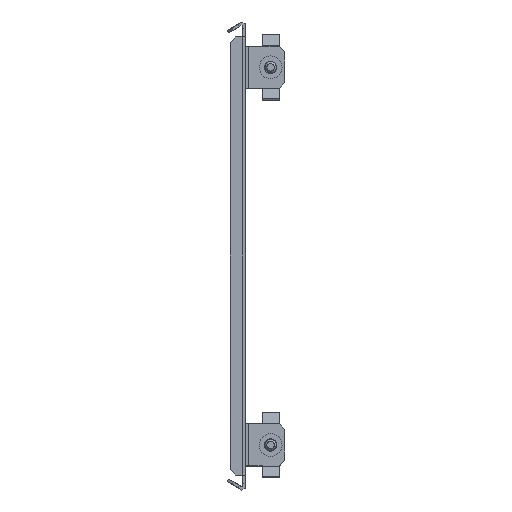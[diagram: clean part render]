
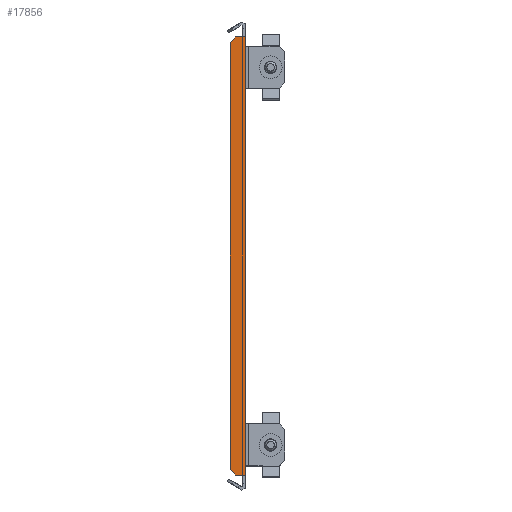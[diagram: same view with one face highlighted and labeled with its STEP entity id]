
A CAD part, front view. The second image highlights one B-rep face of the part: STEP entity #17856.
In plain terms, the highlighted planar face has unit normal (0, -1, 0).
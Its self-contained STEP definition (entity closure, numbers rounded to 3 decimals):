
#342 = ORIENTED_EDGE ( 'NONE', *, *, #19397, .T. ) ;
#425 = VERTEX_POINT ( 'NONE', #13133 ) ;
#575 = CARTESIAN_POINT ( 'NONE',  ( 0., -253., 0. ) ) ;
#748 = EDGE_CURVE ( 'NONE', #22666, #2418, #12321, .T. ) ;
#997 = CARTESIAN_POINT ( 'NONE',  ( 0., -253., -115.897 ) ) ;
#1707 = DIRECTION ( 'NONE',  ( 0., 0., 1. ) ) ;
#1972 = VECTOR ( 'NONE', #10947, 1000. ) ;
#2404 = DIRECTION ( 'NONE',  ( 0., 0., 1. ) ) ;
#2418 = VERTEX_POINT ( 'NONE', #15804 ) ;
#2483 = CARTESIAN_POINT ( 'NONE',  ( 0., -253., 88.75 ) ) ;
#2607 = VERTEX_POINT ( 'NONE', #7504 ) ;
#2643 = DIRECTION ( 'NONE',  ( 0., 0., 1. ) ) ;
#2666 = EDGE_CURVE ( 'NONE', #2418, #425, #14860, .T. ) ;
#2822 = DIRECTION ( 'NONE',  ( 1., 0., 0. ) ) ;
#3143 = VERTEX_POINT ( 'NONE', #18497 ) ;
#3445 = CARTESIAN_POINT ( 'NONE',  ( -8., -253., 112.897 ) ) ;
#3882 = LINE ( 'NONE', #575, #22681 ) ;
#3950 = CARTESIAN_POINT ( 'NONE',  ( -60.448, -253., -60.448 ) ) ;
#4350 = VECTOR ( 'NONE', #14291, 1000. ) ;
#4450 = EDGE_CURVE ( 'NONE', #22280, #3143, #18391, .T. ) ;
#5403 = CARTESIAN_POINT ( 'NONE',  ( 0., -253., 111.095 ) ) ;
#5486 = ORIENTED_EDGE ( 'NONE', *, *, #5732, .T. ) ;
#5499 = LINE ( 'NONE', #12503, #19904 ) ;
#5639 = EDGE_LOOP ( 'NONE', ( #15118, #13964, #342, #11873, #19006, #21067, #18156, #5486, #19668, #9190 ) ) ;
#5732 = EDGE_CURVE ( 'NONE', #2607, #22666, #17925, .T. ) ;
#5943 = LINE ( 'NONE', #12725, #16127 ) ;
#5974 = DIRECTION ( 'NONE',  ( 0., 0., 1. ) ) ;
#6342 = DIRECTION ( 'NONE',  ( 0., 1., 0. ) ) ;
#7320 = EDGE_CURVE ( 'NONE', #425, #22280, #15334, .T. ) ;
#7417 = AXIS2_PLACEMENT_3D ( 'NONE', #21850, #6342, #11388 ) ;
#7453 = VECTOR ( 'NONE', #1707, 1000. ) ;
#7504 = CARTESIAN_POINT ( 'NONE',  ( -5., -253., 115.897 ) ) ;
#7570 = VECTOR ( 'NONE', #16212, 1000. ) ;
#7959 = FACE_OUTER_BOUND ( 'NONE', #5639, .T. ) ;
#8000 = EDGE_CURVE ( 'NONE', #13084, #10451, #5943, .T. ) ;
#8718 = DIRECTION ( 'NONE',  ( 1., 0., 0. ) ) ;
#8915 = LINE ( 'NONE', #15603, #7453 ) ;
#8987 = CARTESIAN_POINT ( 'NONE',  ( -8., -253., 0. ) ) ;
#9064 = LINE ( 'NONE', #21245, #9181 ) ;
#9181 = VECTOR ( 'NONE', #19640, 1000. ) ;
#9189 = CARTESIAN_POINT ( 'NONE',  ( -60.448, -253., 60.448 ) ) ;
#9190 = ORIENTED_EDGE ( 'NONE', *, *, #2666, .T. ) ;
#10451 = VERTEX_POINT ( 'NONE', #2483 ) ;
#10947 = DIRECTION ( 'NONE',  ( 0.707, 0., -0.707 ) ) ;
#11388 = DIRECTION ( 'NONE',  ( 1., 0., 0. ) ) ;
#11873 = ORIENTED_EDGE ( 'NONE', *, *, #8000, .T. ) ;
#12321 = LINE ( 'NONE', #8987, #4350 ) ;
#12503 = CARTESIAN_POINT ( 'NONE',  ( 0., -253., 115.897 ) ) ;
#12702 = VERTEX_POINT ( 'NONE', #5403 ) ;
#12707 = CARTESIAN_POINT ( 'NONE',  ( 0., -253., -88.75 ) ) ;
#12725 = CARTESIAN_POINT ( 'NONE',  ( 0., -253., 0. ) ) ;
#13084 = VERTEX_POINT ( 'NONE', #12707 ) ;
#13099 = CARTESIAN_POINT ( 'NONE',  ( 0., -253., 0. ) ) ;
#13133 = CARTESIAN_POINT ( 'NONE',  ( -5., -253., -115.897 ) ) ;
#13145 = VECTOR ( 'NONE', #2822, 1000. ) ;
#13175 = CARTESIAN_POINT ( 'NONE',  ( 0., -253., -115.897 ) ) ;
#13237 = PLANE ( 'NONE',  #7417 ) ;
#13964 = ORIENTED_EDGE ( 'NONE', *, *, #4450, .T. ) ;
#14291 = DIRECTION ( 'NONE',  ( 0., 0., -1. ) ) ;
#14421 = EDGE_CURVE ( 'NONE', #10451, #12702, #3882, .T. ) ;
#14860 = LINE ( 'NONE', #3950, #1972 ) ;
#15118 = ORIENTED_EDGE ( 'NONE', *, *, #7320, .T. ) ;
#15334 = LINE ( 'NONE', #997, #13145 ) ;
#15499 = EDGE_CURVE ( 'NONE', #2607, #17315, #5499, .T. ) ;
#15603 = CARTESIAN_POINT ( 'NONE',  ( 0., -253., 0. ) ) ;
#15804 = CARTESIAN_POINT ( 'NONE',  ( -8., -253., -112.897 ) ) ;
#16127 = VECTOR ( 'NONE', #2643, 1000. ) ;
#16212 = DIRECTION ( 'NONE',  ( -0.707, 0., -0.707 ) ) ;
#16494 = CARTESIAN_POINT ( 'NONE',  ( 0., -253., 115.897 ) ) ;
#17315 = VERTEX_POINT ( 'NONE', #16494 ) ;
#17856 = ADVANCED_FACE ( 'NONE', ( #7959 ), #13237, .F. ) ;
#17925 = LINE ( 'NONE', #9189, #7570 ) ;
#18156 = ORIENTED_EDGE ( 'NONE', *, *, #15499, .F. ) ;
#18391 = LINE ( 'NONE', #13099, #20307 ) ;
#18497 = CARTESIAN_POINT ( 'NONE',  ( 0., -253., -111.095 ) ) ;
#19006 = ORIENTED_EDGE ( 'NONE', *, *, #14421, .T. ) ;
#19397 = EDGE_CURVE ( 'NONE', #3143, #13084, #9064, .T. ) ;
#19640 = DIRECTION ( 'NONE',  ( 0., 0., 1. ) ) ;
#19668 = ORIENTED_EDGE ( 'NONE', *, *, #748, .T. ) ;
#19904 = VECTOR ( 'NONE', #8718, 1000. ) ;
#20307 = VECTOR ( 'NONE', #5974, 1000. ) ;
#21067 = ORIENTED_EDGE ( 'NONE', *, *, #21333, .T. ) ;
#21245 = CARTESIAN_POINT ( 'NONE',  ( 0., -253., 0. ) ) ;
#21333 = EDGE_CURVE ( 'NONE', #12702, #17315, #8915, .T. ) ;
#21850 = CARTESIAN_POINT ( 'NONE',  ( 0., -253., 0. ) ) ;
#22280 = VERTEX_POINT ( 'NONE', #13175 ) ;
#22666 = VERTEX_POINT ( 'NONE', #3445 ) ;
#22681 = VECTOR ( 'NONE', #2404, 1000. ) ;
